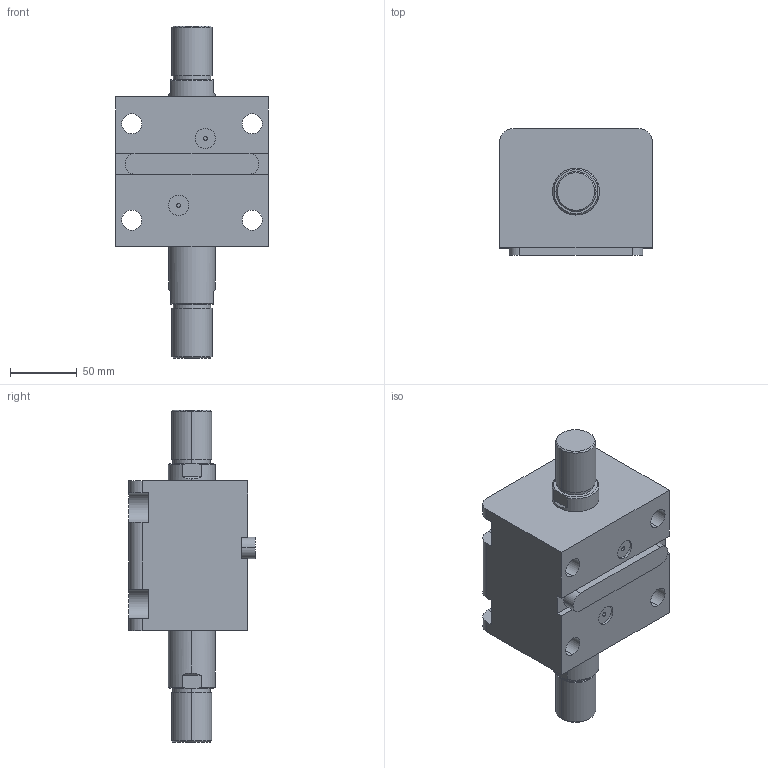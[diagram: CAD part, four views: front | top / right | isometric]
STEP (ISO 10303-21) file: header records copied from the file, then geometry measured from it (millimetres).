
FILE_DESCRIPTION (( 'STEP AP203' ), '1' );
FILE_NAME ('HTB-LWM63-30W.STEP', '2020-12-25T03:41:59', ( '微软用户' ), ( '微软中国' ), 'SwSTEP 2.0', 'SolidWorks 2012', '' );
FILE_SCHEMA (( 'CONFIG_CONTROL_DESIGN' ));
Length unit declared in the file: millimetre
Products named in the file (4): HTB-LWM63-30W活塞杆; HTB-LWM63-30掛极; HTB-LWM63-30W; HTB-LWM63-瑩
Assembly tree (3 placements, depth 2):
  HTB-LWM63-30W
    HTB-LWM63-30掛极
    HTB-LWM63-30W活塞杆
    HTB-LWM63-瑩
Bounding box: 114 x 94.5 x 248 mm (x, y, z)
Volume: 1104685.4 mm3; surface area: 139065.5 mm2
Topology: 3 solids, 3 shells, 113 faces, 273 edges, 178 vertices
Faces by surface type: cylinder 49, plane 48, torus 8, cone 8
Entity records: 3783 total; most frequent: CARTESIAN_POINT 626, DIRECTION 617, ORIENTED_EDGE 546, EDGE_CURVE 273, AXIS2_PLACEMENT_3D 241, VERTEX_POINT 178, LINE 135, VECTOR 135
